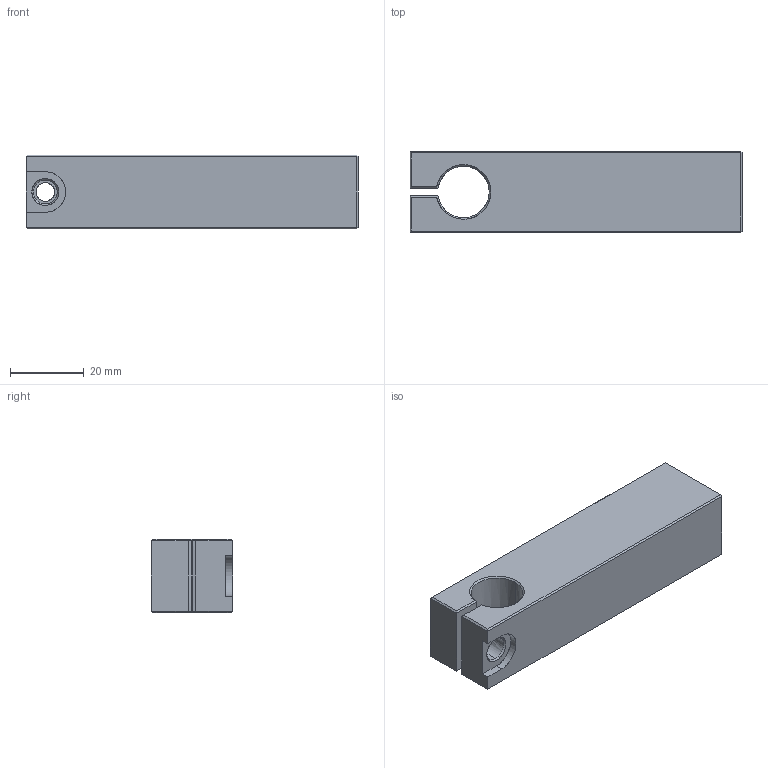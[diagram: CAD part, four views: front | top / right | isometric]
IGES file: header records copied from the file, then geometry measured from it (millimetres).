
Start section: SolidWorks IGES file using analytic representation for surfaces
Global section: file name: L:\電子カタログ-3D_STEP\WHZ0320-F.igs,   15; native system: HSolidWorks 2009; preprocessor: SolidWorks 2009; author: D211; date: 100422.003039; units: millimetre
Bounding box: 90 x 22 x 20 mm (x, y, z)
Surface area: 9291.2 mm2 (no closed solid volume)
Topology: 0 solids, 0 shells, 47 faces, 523 edges, 523 vertices
Faces by surface type: bspline 33, revolution 14
